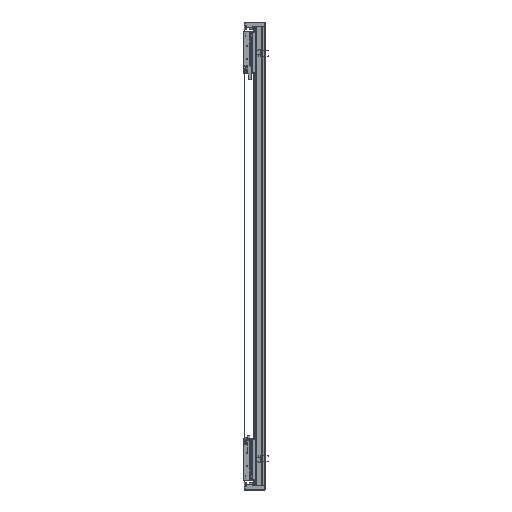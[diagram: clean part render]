
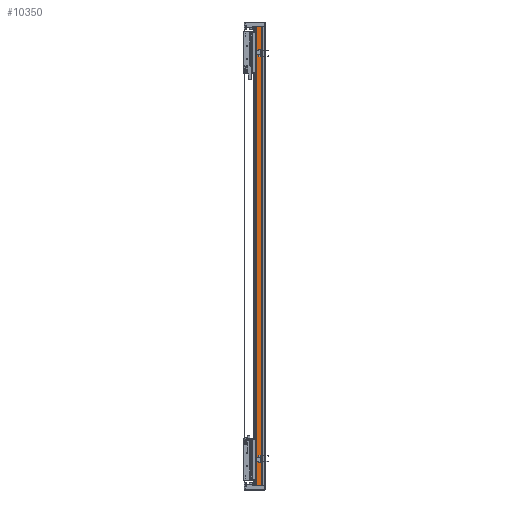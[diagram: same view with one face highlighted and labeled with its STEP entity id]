
A CAD part, left-side view. The second image highlights one B-rep face of the part: STEP entity #10350.
In plain terms, the highlighted planar face has unit normal (-1, 0, 0).
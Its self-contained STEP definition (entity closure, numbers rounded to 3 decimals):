
#2061 = ORIENTED_EDGE ( 'NONE', *, *, #84710, .F. ) ;
#3654 = CARTESIAN_POINT ( 'NONE',  ( -82.5, 36.95, 1050. ) ) ;
#8087 = LINE ( 'NONE', #77324, #98048 ) ;
#10350 = ADVANCED_FACE ( 'NONE', ( #18994 ), #47941, .F. ) ;
#11261 = VERTEX_POINT ( 'NONE', #50872 ) ;
#11564 = VERTEX_POINT ( 'NONE', #60175 ) ;
#12467 = ORIENTED_EDGE ( 'NONE', *, *, #79518, .F. ) ;
#18994 = FACE_OUTER_BOUND ( 'NONE', #31497, .T. ) ;
#19035 = EDGE_CURVE ( 'NONE', #11261, #11564, #107526, .T. ) ;
#31497 = EDGE_LOOP ( 'NONE', ( #103549, #12467, #2061, #37352 ) ) ;
#32265 = CARTESIAN_POINT ( 'NONE',  ( -82.5, 14.45, 1050. ) ) ;
#37352 = ORIENTED_EDGE ( 'NONE', *, *, #19035, .T. ) ;
#38660 = VECTOR ( 'NONE', #50093, 1000. ) ;
#44284 = VECTOR ( 'NONE', #79262, 1000. ) ;
#47941 = PLANE ( 'NONE',  #115173 ) ;
#49805 = CARTESIAN_POINT ( 'NONE',  ( -82.5, 36.95, -1050. ) ) ;
#50093 = DIRECTION ( 'NONE',  ( 0., 0., -1. ) ) ;
#50872 = CARTESIAN_POINT ( 'NONE',  ( -82.5, 36.95, 1050. ) ) ;
#58151 = EDGE_CURVE ( 'NONE', #11564, #120313, #105348, .T. ) ;
#59273 = DIRECTION ( 'NONE',  ( 0., -1., 0. ) ) ;
#59745 = LINE ( 'NONE', #3654, #44284 ) ;
#60175 = CARTESIAN_POINT ( 'NONE',  ( -82.5, 36.95, -1050. ) ) ;
#68113 = DIRECTION ( 'NONE',  ( 0., 1., 0. ) ) ;
#74836 = DIRECTION ( 'NONE',  ( 0., 0., -1. ) ) ;
#77324 = CARTESIAN_POINT ( 'NONE',  ( -82.5, 14.45, 1050. ) ) ;
#79262 = DIRECTION ( 'NONE',  ( 0., -1., 0. ) ) ;
#79518 = EDGE_CURVE ( 'NONE', #93390, #120313, #8087, .T. ) ;
#84710 = EDGE_CURVE ( 'NONE', #11261, #93390, #59745, .T. ) ;
#85157 = DIRECTION ( 'NONE',  ( 1., 0., 0. ) ) ;
#93390 = VERTEX_POINT ( 'NONE', #32265 ) ;
#95252 = CARTESIAN_POINT ( 'NONE',  ( -82.5, 36.95, 1050. ) ) ;
#98034 = CARTESIAN_POINT ( 'NONE',  ( -82.5, 36.95, 1050. ) ) ;
#98048 = VECTOR ( 'NONE', #74836, 1000. ) ;
#103549 = ORIENTED_EDGE ( 'NONE', *, *, #58151, .T. ) ;
#105348 = LINE ( 'NONE', #49805, #121248 ) ;
#107526 = LINE ( 'NONE', #98034, #38660 ) ;
#115173 = AXIS2_PLACEMENT_3D ( 'NONE', #95252, #85157, #68113 ) ;
#120257 = CARTESIAN_POINT ( 'NONE',  ( -82.5, 14.45, -1050. ) ) ;
#120313 = VERTEX_POINT ( 'NONE', #120257 ) ;
#121248 = VECTOR ( 'NONE', #59273, 1000. ) ;
